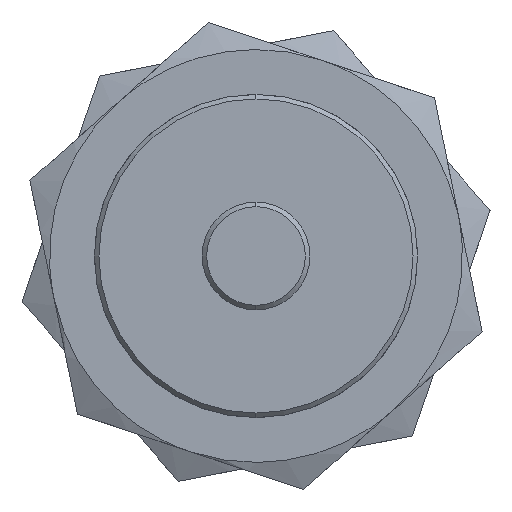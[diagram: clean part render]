
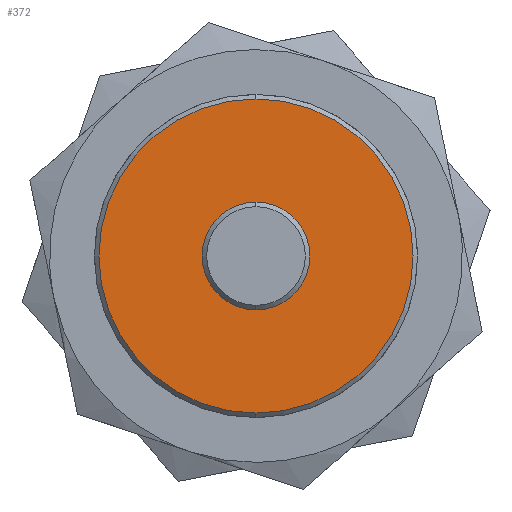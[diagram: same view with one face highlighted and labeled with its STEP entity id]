
A CAD part, left-side view. The second image highlights one B-rep face of the part: STEP entity #372.
In plain terms, the highlighted planar face has unit normal (-1, 0, 0).
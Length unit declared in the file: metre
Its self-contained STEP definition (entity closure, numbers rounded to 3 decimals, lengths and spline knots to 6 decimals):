
#50 = DIRECTION ( 'NONE',  ( 1., 0., 0. ) ) ;
#58 = DIRECTION ( 'NONE',  ( 1., 0., 0. ) ) ;
#143 = CIRCLE ( 'NONE', #299, 0.006 ) ;
#163 = AXIS2_PLACEMENT_3D ( 'NONE', #888, #58, #1025 ) ;
#184 = AXIS2_PLACEMENT_3D ( 'NONE', #1325, #502, #1468 ) ;
#241 = VERTEX_POINT ( 'NONE', #1247 ) ;
#299 = AXIS2_PLACEMENT_3D ( 'NONE', #883, #50, #1021 ) ;
#372 = ADVANCED_FACE ( 'NONE', ( #1002, #1695 ), #1348, .F. ) ;
#386 = CIRCLE ( 'NONE', #557, 0.006 ) ;
#425 = CIRCLE ( 'NONE', #184, 0.0175 ) ;
#502 = DIRECTION ( 'NONE',  ( 1., 0., 0. ) ) ;
#517 = VERTEX_POINT ( 'NONE', #1676 ) ;
#521 = EDGE_CURVE ( 'NONE', #241, #1598, #143, .T. ) ;
#546 = ORIENTED_EDGE ( 'NONE', *, *, #1398, .F. ) ;
#557 = AXIS2_PLACEMENT_3D ( 'NONE', #1494, #667, #1629 ) ;
#563 = VERTEX_POINT ( 'NONE', #614 ) ;
#573 = EDGE_CURVE ( 'NONE', #517, #563, #1556, .T. ) ;
#614 = CARTESIAN_POINT ( 'NONE',  ( 0.05, 0., 0.0175 ) ) ;
#667 = DIRECTION ( 'NONE',  ( 1., 0., 0. ) ) ;
#697 = EDGE_LOOP ( 'NONE', ( #1478, #546 ) ) ;
#704 = ORIENTED_EDGE ( 'NONE', *, *, #1535, .T. ) ;
#760 = EDGE_LOOP ( 'NONE', ( #704, #1699 ) ) ;
#809 = DIRECTION ( 'NONE',  ( 0., 0., -1. ) ) ;
#822 = DIRECTION ( 'NONE',  ( 1., 0., 0. ) ) ;
#883 = CARTESIAN_POINT ( 'NONE',  ( 0.05, 0., 0. ) ) ;
#888 = CARTESIAN_POINT ( 'NONE',  ( 0.05, 0., 0. ) ) ;
#948 = AXIS2_PLACEMENT_3D ( 'NONE', #1657, #822, #809 ) ;
#1002 = FACE_BOUND ( 'NONE', #760, .T. ) ;
#1021 = DIRECTION ( 'NONE',  ( 0., 0., 1. ) ) ;
#1025 = DIRECTION ( 'NONE',  ( 0., 0., -1. ) ) ;
#1218 = CARTESIAN_POINT ( 'NONE',  ( 0.05, 0., 0.006 ) ) ;
#1247 = CARTESIAN_POINT ( 'NONE',  ( 0.05, 0., -0.006 ) ) ;
#1325 = CARTESIAN_POINT ( 'NONE',  ( 0.05, 0., 0. ) ) ;
#1348 = PLANE ( 'NONE',  #948 ) ;
#1398 = EDGE_CURVE ( 'NONE', #563, #517, #425, .T. ) ;
#1468 = DIRECTION ( 'NONE',  ( 0., 0., -1. ) ) ;
#1478 = ORIENTED_EDGE ( 'NONE', *, *, #573, .F. ) ;
#1494 = CARTESIAN_POINT ( 'NONE',  ( 0.05, 0., 0. ) ) ;
#1535 = EDGE_CURVE ( 'NONE', #1598, #241, #386, .T. ) ;
#1556 = CIRCLE ( 'NONE', #163, 0.0175 ) ;
#1598 = VERTEX_POINT ( 'NONE', #1218 ) ;
#1629 = DIRECTION ( 'NONE',  ( 0., 0., 1. ) ) ;
#1657 = CARTESIAN_POINT ( 'NONE',  ( 0.05, -0.01771, 0.01771 ) ) ;
#1676 = CARTESIAN_POINT ( 'NONE',  ( 0.05, 0., -0.0175 ) ) ;
#1695 = FACE_OUTER_BOUND ( 'NONE', #697, .T. ) ;
#1699 = ORIENTED_EDGE ( 'NONE', *, *, #521, .T. ) ;
